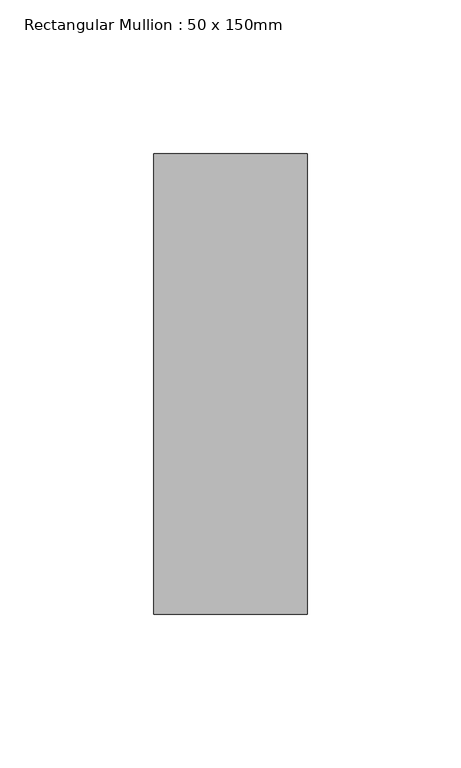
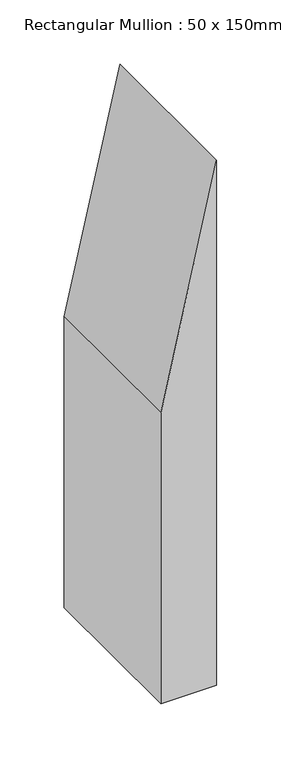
"""IFC4 building model written with IfcOpenShell, lengths in millimetres: member geometry, Rectangular Mullion : 50 x 150mm."""

from ifc_helpers import new_model, si_unit, frame, origin, place, context, project, spatial, polyline, outline, extrude, source, transform, mapped, element, save


def rectangular_mullion_50_x_150mm_9339268f(model_context):
    return source(origin(), model_context, "Body", "SweptSolid", [
        extrude(outline(polyline([(-116.3208215, 25.0), (-337.815764, -25.0), (-613.5182067, -25.0), (-613.5182067, 25.0), (-116.3208215, 25.0)])), frame((0.0, -75.0, 0.0), z_axis=(0.0, 1.0, 0.0), x_axis=(0.0, 0.0, 1.0)), (0.0, 0.0, 1.0), 150.0),
    ])


if __name__ == "__main__":
    model = new_model("IFC4")
    model_context = context("Model", 3, world=origin())
    ifc_project = project(units=[si_unit("LENGTHUNIT", "METRE", prefix="MILLI")], contexts=[model_context])
    site = spatial("IfcSite", under=ifc_project)
    building = spatial("IfcBuilding", under=site)
    placement = place(None, origin())
    rectangular_mullion_50_x_150mm_shape = rectangular_mullion_50_x_150mm_9339268f(model_context)
    element("IfcMember", 1, ObjectType="Rectangular Mullion : 50 x 150mm", at=placement, inside=building, context=model_context, shape_type="MappedRepresentation", body=[
        mapped(rectangular_mullion_50_x_150mm_shape, transform((0.0, 0.0, 0.0), x_axis=(1.0, 0.0, 0.0), y_axis=(0.0, 1.0, 0.0), z_axis=(0.0, 0.0, 1.0))),
    ])
    save(model, "model.ifc")
